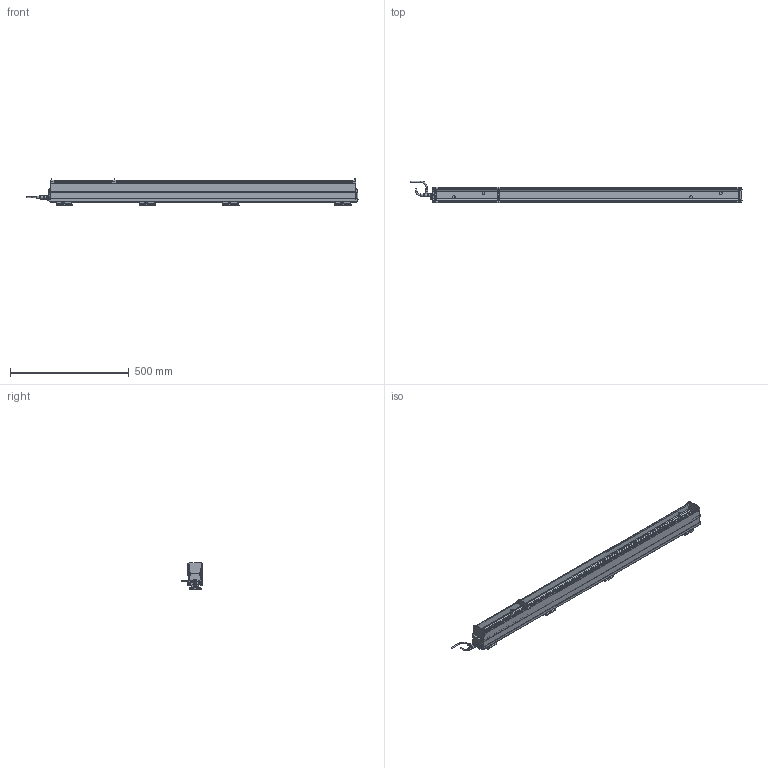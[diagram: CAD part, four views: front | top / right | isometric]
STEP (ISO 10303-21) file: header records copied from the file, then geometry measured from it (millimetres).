
FILE_DESCRIPTION(/* description */ (''),/* implementation_level */ '2;1');
FILE_NAME(/* name */ 'THUNDERION2_3D_1125-1320',/* time_stamp */ '2017-09-28T10:54:37+02:00',/* author */ (''),/* organization */ (''),/* preprocessor_version */ 'ST-DEVELOPER v15.7',/* originating_system */ 'HiCAD 2015 2002.1 Build 408',/* authorisation */ '');
FILE_SCHEMA (('AUTOMOTIVE_DESIGN { 1 0 10303 214 1 1 1 1 }'));
Products named in the file (100): Root; -_ThunderION 1125/1320; -_Side profile; -_Bar; -_Connector straight; EXTRUDED SOLID_0; -_Cord; REVOLVED SOLID_1; REVOLVED SOLID_3; DIN 13-M12x1,5; -_Connector angled; REVOLVED SOLID_2; 4532000100_Mounting bracket bars; -_Side piece; -_Slide piece; -_Bracket small; DIN 13-M3; DIN 76-M3; -_Cable End; light pipe M; light pipe L; -_Cap CE; -_Stud M4; -_Connector M12 male 5 pole_1; -_Contacts; ABSR_1_2_1_1_Inner part; ABSR_1_2_1_2_Inner part; bus; Pg 9; -_Ring tongue terminal; 9230000020_Nut M4; GEWINDE; 9240100020_Spring washer M4; ISO 7051-ST3.5x9.5-C-H_Tapping screws_0; -_Fill; -_Dead end; -_Cap DE; -_Emitter; -_Support Side Profile; -_End Plate
Assembly tree (99 placements, depth 6):
  Root
    -_ThunderION 1125/1320
      -_Side profile
      -_Side profile
      -_Bar
      -_Connector straight
        EXTRUDED SOLID_0
        -_Cord
        REVOLVED SOLID_1
        REVOLVED SOLID_3
          DIN 13-M12x1,5
      -_Connector angled
        REVOLVED SOLID_1
        EXTRUDED SOLID_0
        -_Cord
        REVOLVED SOLID_2
        REVOLVED SOLID_3
          DIN 13-M12x1,5
      4532000100_Mounting bracket bars
        -_Side piece
        -_Side piece
        -_Slide piece
        -_Bracket small
          DIN 13-M3
          DIN 13-M3
          DIN 76-M3
          DIN 76-M3
      4532000100_Mounting bracket bars
        -_Side piece
        -_Side piece
        -_Slide piece
        -_Bracket small
          DIN 13-M3
          DIN 13-M3
          DIN 76-M3
          DIN 76-M3
      4532000100_Mounting bracket bars
        -_Side piece
        -_Side piece
        -_Slide piece
        -_Bracket small
          DIN 13-M3
          DIN 13-M3
          DIN 76-M3
          DIN 76-M3
      4532000100_Mounting bracket bars
        -_Side piece
        -_Side piece
        -_Slide piece
        -_Bracket small
          DIN 13-M3
          DIN 13-M3
          DIN 76-M3
          DIN 76-M3
      -_Cable End
        light pipe M
        light pipe L
        light pipe L
        -_Cap CE
        -_Stud M4
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Bounding box: 1398.34 x 92.25 x 113 mm (x, y, z)
Volume: 4189769.1 mm3; surface area: 1009549.2 mm2
Topology: 93 solids, 105 shells, 4183 faces, 10775 edges, 6593 vertices
Faces by surface type: plane 1811, cylinder 1586, bspline 248, torus 198, sphere 175, cone 165
Full cylindrical faces by diameter (mm): 0.8 x10, 1 x10, 2.387 x16, 2.5 x1, 2.64 x16, 3 x32, 3.141 x2, 3.5 x8, 4 x26, 4.2 x3, 4.4 x1, 5 x4, 5.5 x20, 7.3 x8, 8 x2, 8.4 x2, 9 x6, 9.6 x1, 10 x2, 10.16 x1, 10.5 x2, 11 x4, 12 x5, 12.8 x1, 13.8 x4, 13.86 x1, 14.5 x3, 15.199 x1, 15.2 x1
Entity records: 257851 total; most frequent: CARTESIAN_POINT 77966, DIRECTION 20621, PRESENTATION_STYLE_ASSIGNMENT 20295, OVER_RIDING_STYLED_ITEM 20206, DRAUGHTING_PRE_DEFINED_CURVE_FONT 20174, CURVE_STYLE 20174, ORIENTED_EDGE 20174, EDGE_CURVE 10087
